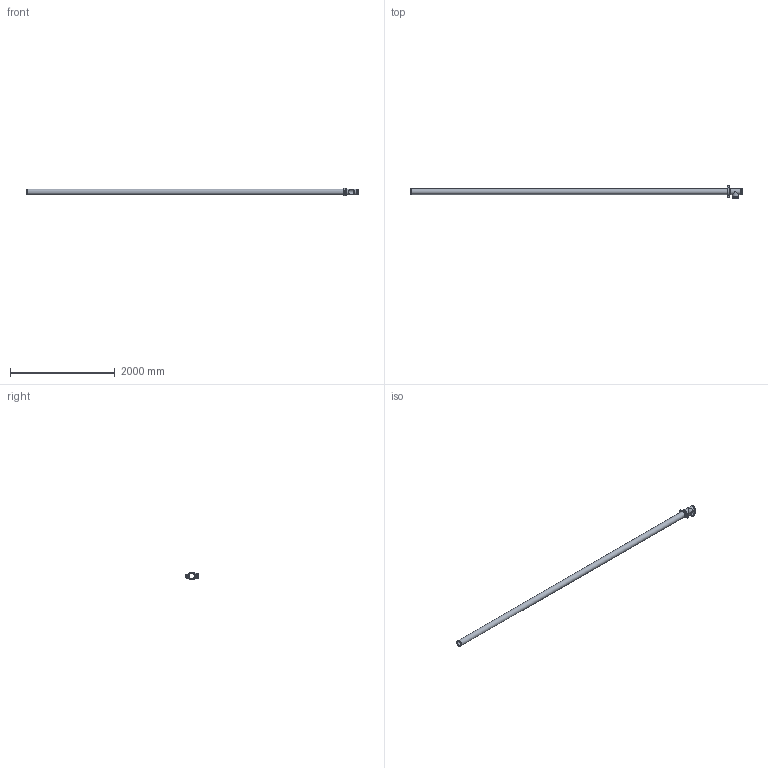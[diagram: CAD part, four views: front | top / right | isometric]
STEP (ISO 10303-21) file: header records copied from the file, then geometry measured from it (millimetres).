
FILE_DESCRIPTION(/* description */ ('VIC LONG RUN FITTING No R12 (OGS)','CAx-IF Rec.Pracs.---Representation and Presentation of Product Manufacturing Information (PMI)---4.0---2014-10-13'),/* implementation_level */ '2;1');
FILE_NAME(/* name */ 'C:\Users\Vjadhav\AppData\Roaming\Autodesk\ApplicationPlugins\Back Up\Victaulic_IPS_Long Run Fittings_No R12 (OGS)\Victaulic_IPS_Long Run Fittings_No R12 (OGS)_4 (100).stp',/* time_stamp */ '2020-10-06T18:48:59+05:00',/* author */ ('Vjadhav'),/* organization */ ('Victaulic'),/* preprocessor_version */ 'ST-DEVELOPER v17.2',/* originating_system */ 'Autodesk Inventor 2019',/* authorisation */ '');
FILE_SCHEMA (('AP242_MANAGED_MODEL_BASED_3D_ENGINEERING_MIM_LF { 1 0 10303 442 1 1 4 }'));
Length unit declared in the file: inch
Products named in the file (4): R12-04.0; 020-04.0; 107N-04.0; Pipe_R10-04.0
Assembly tree (3 placements, depth 2):
  R12-04.0
    020-04.0
    107N-04.0
    Pipe_R10-04.0
Bounding box: 6353.81 x 238.12 x 149.26 mm (x, y, z)
Volume: 13511704.2 mm3; surface area: 4455540.9 mm2
Topology: 3 solids, 3 shells, 154 faces, 401 edges, 272 vertices
Faces by surface type: plane 65, cylinder 61, bspline 16, torus 6, cone 4, sphere 2
Full cylindrical faces by diameter (mm): 12.7 x4, 22.225 x2, 101.6 x1, 102.26 x3, 110.084 x5, 114.3 x10
Entity records: 5747 total; most frequent: CARTESIAN_POINT 1510, DIRECTION 859, ORIENTED_EDGE 802, EDGE_CURVE 401, AXIS2_PLACEMENT_3D 341, VERTEX_POINT 272, EDGE_LOOP 185, LINE 177
